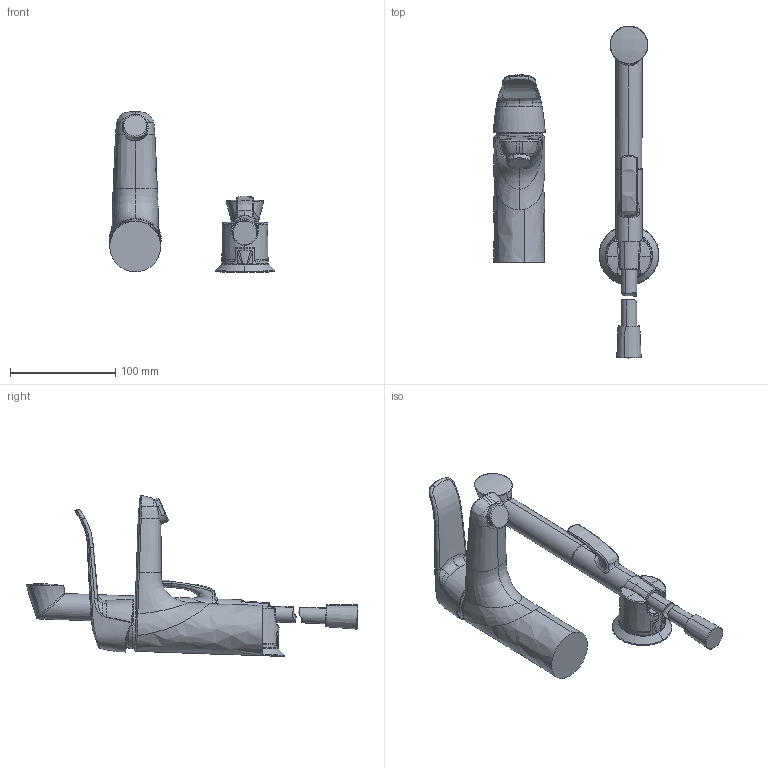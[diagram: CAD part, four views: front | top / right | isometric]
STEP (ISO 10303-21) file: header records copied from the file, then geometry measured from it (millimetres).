
FILE_DESCRIPTION (( 'STEP AP203' ), '1' );
FILE_NAME ('5705FZ(2023)+5706FZ(2023).STEP', '2023-02-10T11:23:50', ( '' ), ( '' ), 'SwSTEP 2.0', 'SolidWorks 2016', '' );
FILE_SCHEMA (( 'CONFIG_CONTROL_DESIGN' ));
Length unit declared in the file: millimetre
Products named in the file (1): 5705FZ(2023)+5706FZ(2023)
Bounding box: 157.08 x 314.76 x 152.62 mm (x, y, z)
Volume: 609821.8 mm3; surface area: 94772.4 mm2
Topology: 10 solids, 10 shells, 291 faces, 733 edges, 465 vertices
Faces by surface type: bspline 178, plane 38, cylinder 29, torus 24, cone 16, sphere 6
Entity records: 49098 total; most frequent: CARTESIAN_POINT 43701, ORIENTED_EDGE 1462, EDGE_CURVE 731, DIRECTION 552, B_SPLINE_CURVE_WITH_KNOTS 476, VERTEX_POINT 465, EDGE_LOOP 296, FACE_OUTER_BOUND 291
